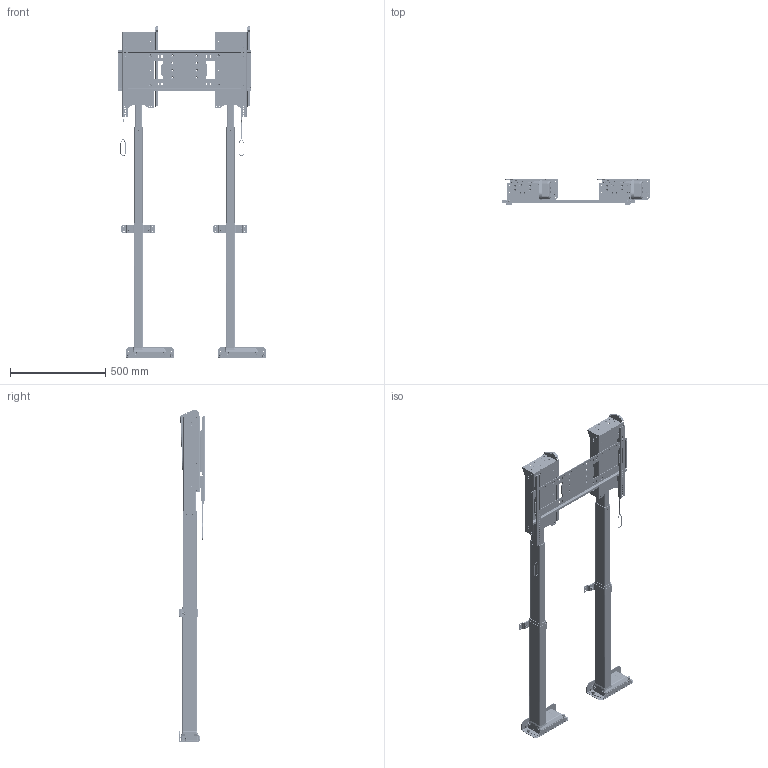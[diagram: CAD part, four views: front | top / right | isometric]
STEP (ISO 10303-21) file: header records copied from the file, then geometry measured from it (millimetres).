
FILE_DESCRIPTION(/* description */ ('STEP AP242','CAx-IF Rec.Pracs.---Representation and Presentation of Product Manufacturing Information (PMI)---4.0---2014-10-13','CAx-IF Rec.Pracs.---3D Tessellated Geometry---0.4---2014-09-14','2;1'),/* implementation_level */ '2;1');
FILE_NAME(/* name */ '63effc61e841dc28148480d1',/* time_stamp */ '2023-02-17T22:15:01+00:00',/* author */ (''),/* organization */ (''),/* preprocessor_version */ 'ST-DEVELOPER v18.102',/* originating_system */ ' ',/* authorisation */ ' ');
FILE_SCHEMA (('AP242_MANAGED_MODEL_BASED_3D_ENGINEERING_MIM_LF { 1 0 10303 442 1 1 4 }'));
Products named in the file (43): ML-65; ULS-NX-037 -- ULS HTG Adapter Plate; Hex socket countersunk head screw M6x1 x 12; OLD_ULS-NX-024 - ULS Hinged Top Guide; Hex socket countersunk head screw M6x1 x 16; WDS8151-215; L-65 Lower Sub Assembly <2>; ULS-NX-002 - ULS QUICK RELEASE LC MOUNT; ULS-NX-004 - ULS COLUMN CLAMP; ULS-NX-022 - ULS REAR SUPPORT <1>; PEM FHS-M6-12  ; ULS-NX-022 - ULS REAR SUPPORT; DL16XL_STANDART_ASM <1>; L45 LC Inner Profile; L45 LC Middle Profile; L45 LC Motor Housing; ULS-NX-001 - ULS QUICK RELEASE BASE MOUNT W/ PEMS <1>; ULS-NX-001 - ULS QUICK RELEASE BASE MOUNT; L-65 Lower Sub Assembly <1>; ULS-NX-108 - ULS SCREEN SUPPORT WELDMENT <2>; PEM CLS-M6-1  ; F-M6-3 M6 PEM NUT; ULS-NX-009 - ULS SCREEN SUPPORT TOP PLATE <1>; ULS-NX-009 - UL SCREEN SUPPORT TOP PLATE; ULS-NX-008 - UL SCREEN SUPPORT SHELL; ULS-NX-108 - ULS SCREEN SUPPORT WELDMENT <1>; SBP & VMB <1>; PZ Pan head screw M5x0.80 x 25; ULS-NX-017 - UL SCREEN BACK PLATE; Lanyard; ULS-NX-118 - UL VMB WELDMENT <2>; Socket button head cap screw #6-32 x 0.188; VMB Washer; ULS-NX-019 - UL LEVEL ADJUSTMENT PLATE; PEM BSO-632-10  ZI; 90107A012; ULS-NX-018 - UL VERICAL MOUNTING BAR; ULS-NX-020 - UL SCREEN LOCK; ULS-NX-118 - UL VMB WELDMENT <1>
Assembly tree (182 placements, depth 4):
  ML-65
    ULS-NX-037 -- ULS HTG Adapter Plate  x2
    Hex socket countersunk head screw M6x1 x 12  x16
    OLD_ULS-NX-024 - ULS Hinged Top Guide  x2
    Hex socket countersunk head screw M6x1 x 16  x8
    WDS8151-215  x8
    L-65 Lower Sub Assembly <2>
      ULS-NX-002 - ULS QUICK RELEASE LC MOUNT
      ULS-NX-004 - ULS COLUMN CLAMP
      ULS-NX-022 - ULS REAR SUPPORT <1>
        PEM FHS-M6-12    x2
        ULS-NX-022 - ULS REAR SUPPORT
      DL16XL_STANDART_ASM <1>
        L45 LC Inner Profile
        L45 LC Middle Profile
        L45 LC Motor Housing
      ULS-NX-001 - ULS QUICK RELEASE BASE MOUNT W/ PEMS <1>
        PEM FHS-M6-12    x2
        ULS-NX-001 - ULS QUICK RELEASE BASE MOUNT
    L-65 Lower Sub Assembly <1>
      DL16XL_STANDART_ASM <1>
        L45 LC Inner Profile
        L45 LC Middle Profile
        L45 LC Motor Housing
      ULS-NX-002 - ULS QUICK RELEASE LC MOUNT
      ULS-NX-004 - ULS COLUMN CLAMP
      ULS-NX-022 - ULS REAR SUPPORT <1>
        PEM FHS-M6-12    x2
        ULS-NX-022 - ULS REAR SUPPORT
      ULS-NX-001 - ULS QUICK RELEASE BASE MOUNT W/ PEMS <1>
        PEM FHS-M6-12    x2
        ULS-NX-001 - ULS QUICK RELEASE BASE MOUNT
    ULS-NX-108 - ULS SCREEN SUPPORT WELDMENT <2>
      PEM CLS-M6-1    x32
      F-M6-3 M6 PEM NUT
      ULS-NX-009 - ULS SCREEN SUPPORT TOP PLATE <1>
        PEM CLS-M6-1    x4
        ULS-NX-009 - UL SCREEN SUPPORT TOP PLATE
      ULS-NX-008 - UL SCREEN SUPPORT SHELL
    ULS-NX-108 - ULS SCREEN SUPPORT WELDMENT <1>
      PEM CLS-M6-1    x32
      F-M6-3 M6 PEM NUT
      ULS-NX-008 - UL SCREEN SUPPORT SHELL
      ULS-NX-009 - ULS SCREEN SUPPORT TOP PLATE <1>
        PEM CLS-M6-1    x4
        ULS-NX-009 - UL SCREEN SUPPORT TOP PLATE
    SBP & VMB <1>
      PZ Pan head screw M5x0.80 x 25  x2
      ULS-NX-017 - UL SCREEN BACK PLATE
      Lanyard  x2
      ULS-NX-118 - UL VMB WELDMENT <2>
        Socket button head cap screw #6-32 x 0.188  x2
        VMB Washer  x4
        ULS-NX-019 - UL LEVEL ADJUSTMENT PLATE
        PEM BSO-632-10  ZI  x2
        90107A012  x2
        ULS-NX-018 - UL VERICAL MOUNTING BAR
        ULS-NX-020 - UL SCREEN LOCK
      ULS-NX-118 - UL VMB WELDMENT <1>
        VMB Washer  x4
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Bounding box: 778.16 x 135.05 x 1741.98 mm (x, y, z)
Volume: 16198195.1 mm3; surface area: 2623805.2 mm2
Topology: 167 solids, 167 shells, 15642 faces, 42088 edges, 27276 vertices
Faces by surface type: plane 10850, cylinder 2790, cone 960, bspline 716, torus 296, sphere 30
Full cylindrical faces by diameter (mm): 2.032 x14, 2.642 x4, 3.175 x10, 3.505 x4, 4.6 x4, 4.917 x74, 5 x32, 5.026 x4, 5.08 x4, 5.277 x8, 5.3 x12, 5.385 x12, 5.41 x8, 5.6 x8, 5.613 x12, 5.944 x4, 5.994 x4, 6 x60, 6.35 x24, 6.528 x8, 6.6 x8, 6.604 x8, 6.655 x4, 6.976 x2, 7.112 x2, 7.62 x4, 8.128 x34, 8.72 x2, 8.73 x72, 8.75 x72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
Entity records: 85674 total; most frequent: CARTESIAN_POINT 16850, DIRECTION 13455, ORIENTED_EDGE 13058, EDGE_CURVE 6529, AXIS2_PLACEMENT_3D 4613, VERTEX_POINT 4313, LINE 4229, VECTOR 4229
